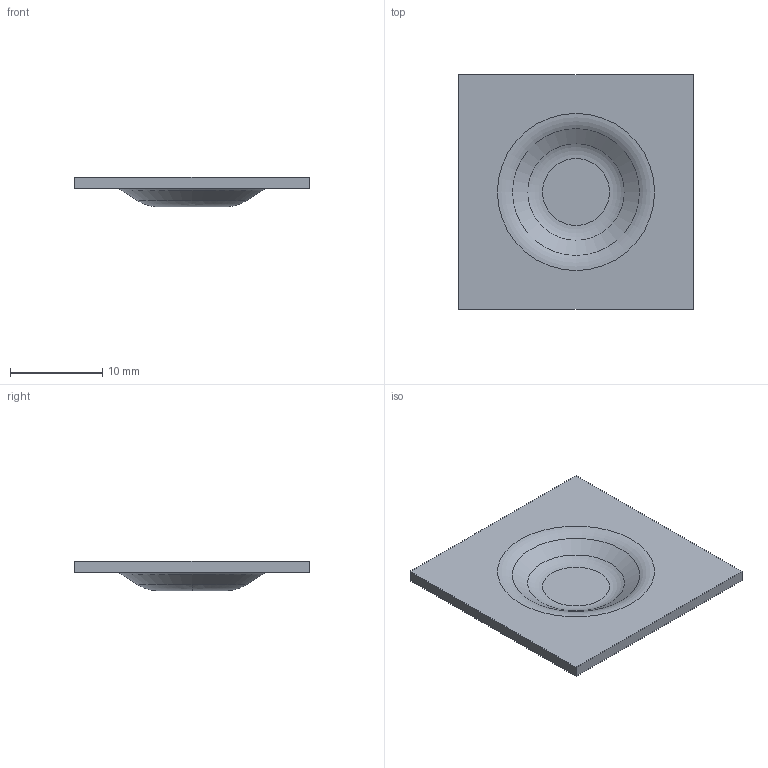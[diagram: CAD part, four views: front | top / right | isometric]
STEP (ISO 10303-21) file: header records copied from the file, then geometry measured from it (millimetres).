
FILE_DESCRIPTION((''),'1');
FILE_NAME('C:/Users/ericfrey/Desktop/441-2825-00 REV 06 BLEMISH.stp', '2015-01-20T18:29:14',(''), (''), 'KCM Version 1.1.1182.0', 'Kubotek KeyCreator', '');
FILE_SCHEMA(('AUTOMOTIVE_DESIGN'));
Length unit declared in the file: inch
Bounding box: 25.4 x 25.4 x 3.2 mm (x, y, z)
Volume: 797.3 mm3; surface area: 1450.9 mm2
Topology: 1 solids, 1 shells, 15 faces, 29 edges, 18 vertices
Faces by surface type: plane 8, torus 3, bspline 2, cone 2
Entity records: 457 total; most frequent: CARTESIAN_POINT 117, DIRECTION 72, ORIENTED_EDGE 58, AXIS2_PLACEMENT_3D 29, EDGE_CURVE 29, VERTEX_POINT 18, EDGE_LOOP 17, FACE_OUTER_BOUND 15
